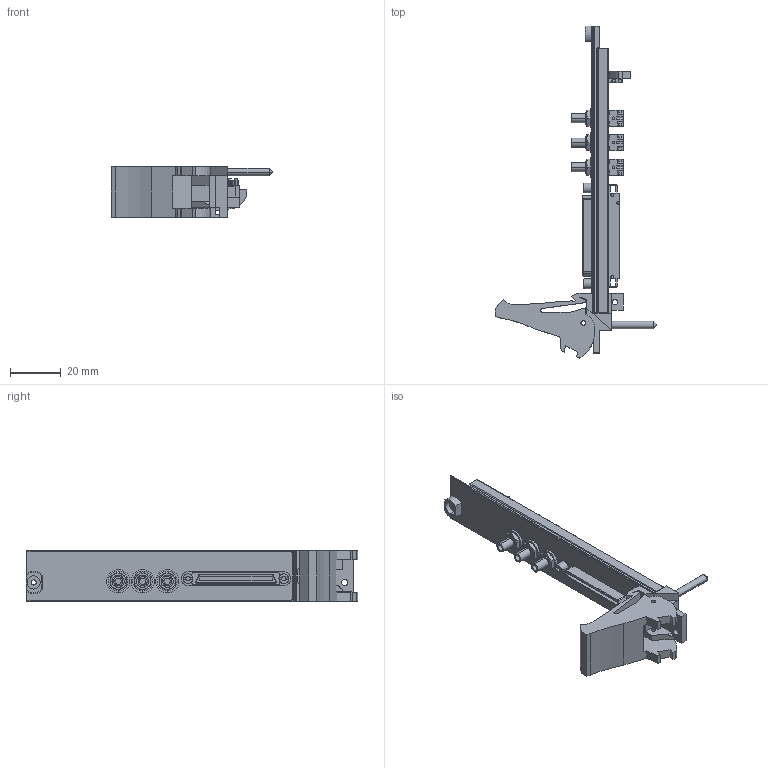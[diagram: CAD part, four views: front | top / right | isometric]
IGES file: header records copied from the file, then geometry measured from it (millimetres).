
Start section:  PTC IGES file: cu_pxi-6551.igs
Global section: file name: cu_pxi-6551.igs; native system: Pro/ENGINEER by Parametric Technology Corporation; preprocessor: 2006080; author: lmcdanie; organization: Unknown; date: 070806.133602; units: inch
Bounding box: 63.53 x 130.62 x 20.02 mm (x, y, z)
Surface area: 18389.1 mm2 (no closed solid volume)
Topology: 0 solids, 0 shells, 661 faces, 3452 edges, 3448 vertices
Faces by surface type: bspline 443, revolution 218
